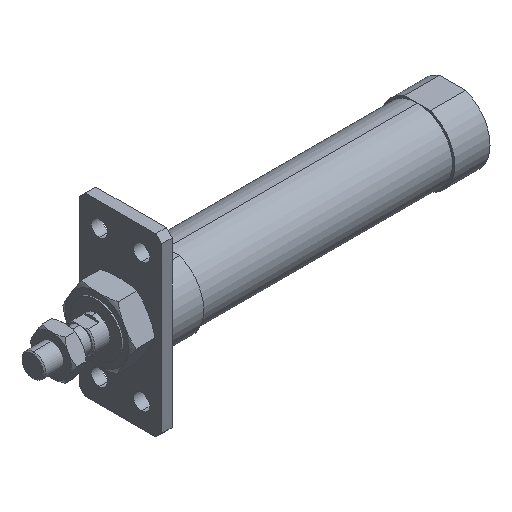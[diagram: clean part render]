
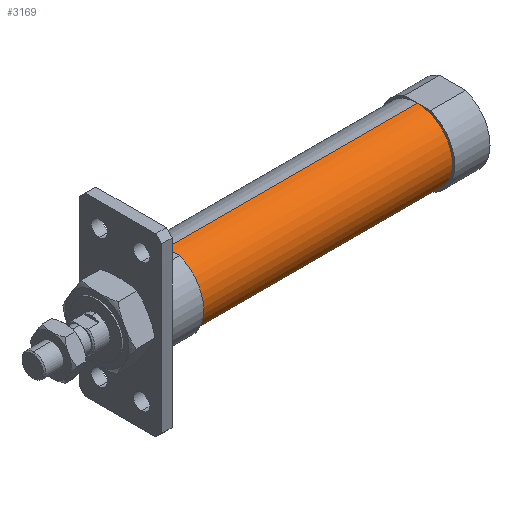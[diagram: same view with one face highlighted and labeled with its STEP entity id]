
A CAD part, isometric view. The second image highlights one B-rep face of the part: STEP entity #3169.
In plain terms, the highlighted cylindrical face has radius 15 mm (diameter 30 mm), a partial arc.
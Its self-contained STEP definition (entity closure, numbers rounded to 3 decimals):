
#73 = VECTOR ( 'NONE', #3795, 1000. ) ;
#373 = DIRECTION ( 'NONE',  ( 0., 0., 1. ) ) ;
#386 = AXIS2_PLACEMENT_3D ( 'NONE', #764, #1709, #2014 ) ;
#564 = EDGE_CURVE ( 'NONE', #952, #2519, #1834, .T. ) ;
#651 = VERTEX_POINT ( 'NONE', #1443 ) ;
#656 = CARTESIAN_POINT ( 'NONE',  ( 164., 0., 15. ) ) ;
#764 = CARTESIAN_POINT ( 'NONE',  ( 57., 0., 0. ) ) ;
#915 = ORIENTED_EDGE ( 'NONE', *, *, #1161, .F. ) ;
#952 = VERTEX_POINT ( 'NONE', #656 ) ;
#1056 = CARTESIAN_POINT ( 'NONE',  ( -6.469, 0., 15. ) ) ;
#1079 = CYLINDRICAL_SURFACE ( 'NONE', #1619, 15. ) ;
#1145 = CARTESIAN_POINT ( 'NONE',  ( 57., 0., 15. ) ) ;
#1161 = EDGE_CURVE ( 'NONE', #651, #2519, #2923, .T. ) ;
#1175 = LINE ( 'NONE', #1539, #2258 ) ;
#1368 = DIRECTION ( 'NONE',  ( -1., 0., 0. ) ) ;
#1443 = CARTESIAN_POINT ( 'NONE',  ( 57., 0., -15. ) ) ;
#1529 = CARTESIAN_POINT ( 'NONE',  ( 164., 0., -15. ) ) ;
#1539 = CARTESIAN_POINT ( 'NONE',  ( -6.469, 0., -15. ) ) ;
#1598 = CARTESIAN_POINT ( 'NONE',  ( 164., 0., 0. ) ) ;
#1619 = AXIS2_PLACEMENT_3D ( 'NONE', #2310, #1368, #3493 ) ;
#1651 = CIRCLE ( 'NONE', #3226, 15. ) ;
#1709 = DIRECTION ( 'NONE',  ( -1., 0., 0. ) ) ;
#1803 = ORIENTED_EDGE ( 'NONE', *, *, #2931, .F. ) ;
#1834 = LINE ( 'NONE', #1056, #73 ) ;
#1920 = EDGE_LOOP ( 'NONE', ( #1803, #2783, #2994, #915 ) ) ;
#2014 = DIRECTION ( 'NONE',  ( 0., 0., 1. ) ) ;
#2059 = VERTEX_POINT ( 'NONE', #1529 ) ;
#2119 = DIRECTION ( 'NONE',  ( -1., 0., 0. ) ) ;
#2169 = EDGE_CURVE ( 'NONE', #2059, #952, #1651, .T. ) ;
#2258 = VECTOR ( 'NONE', #2119, 1000. ) ;
#2310 = CARTESIAN_POINT ( 'NONE',  ( -6.469, 0., 0. ) ) ;
#2447 = DIRECTION ( 'NONE',  ( -1., 0., 0. ) ) ;
#2519 = VERTEX_POINT ( 'NONE', #1145 ) ;
#2783 = ORIENTED_EDGE ( 'NONE', *, *, #2169, .T. ) ;
#2923 = CIRCLE ( 'NONE', #386, 15. ) ;
#2931 = EDGE_CURVE ( 'NONE', #2059, #651, #1175, .T. ) ;
#2994 = ORIENTED_EDGE ( 'NONE', *, *, #564, .T. ) ;
#3169 = ADVANCED_FACE ( 'NONE', ( #3725 ), #1079, .T. ) ;
#3226 = AXIS2_PLACEMENT_3D ( 'NONE', #1598, #2447, #373 ) ;
#3493 = DIRECTION ( 'NONE',  ( 0., 0., 1. ) ) ;
#3725 = FACE_OUTER_BOUND ( 'NONE', #1920, .T. ) ;
#3795 = DIRECTION ( 'NONE',  ( -1., 0., 0. ) ) ;
